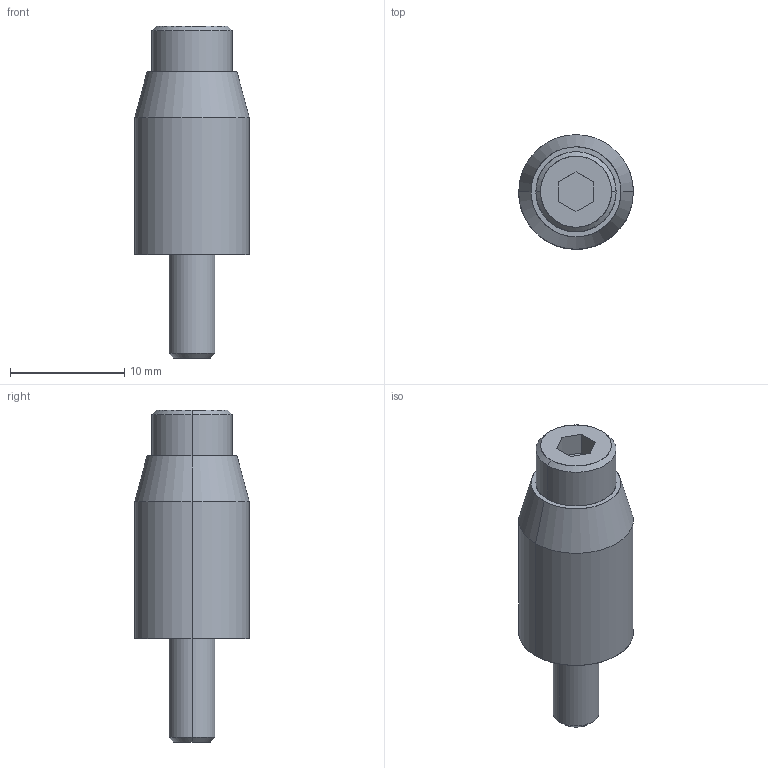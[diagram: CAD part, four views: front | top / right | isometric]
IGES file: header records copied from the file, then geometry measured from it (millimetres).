
Global section: file name: E:\UnigraphicsGraphicData\MISUMI_PRESS-PARTS\IGES\3d_sgc10-20_00794_r00.igs; native system: NX V5.0; preprocessor: UGS NX IGES V5.0; author: MISUMI; date: 20110105.162537; units: millimetre
Bounding box: 10 x 10 x 29 mm (x, y, z)
Surface area: 1112.2 mm2 (no closed solid volume)
Topology: 0 solids, 0 shells, 27 faces, 180 edges, 180 vertices
Faces by surface type: bspline 27
